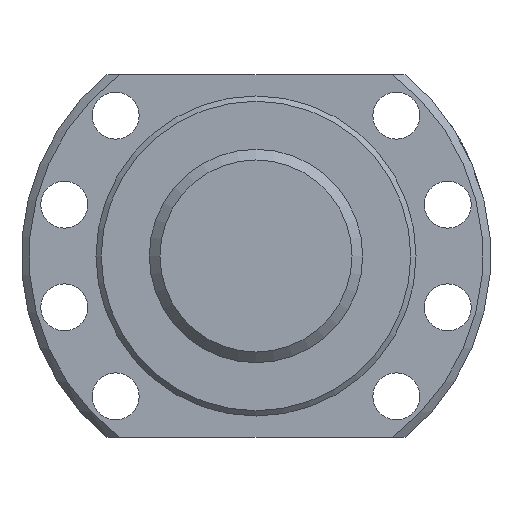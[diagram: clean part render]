
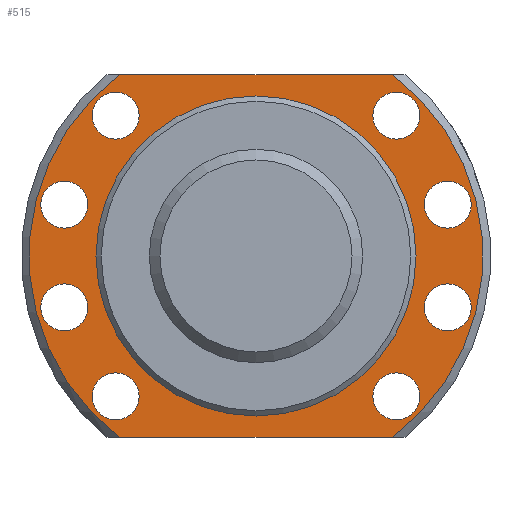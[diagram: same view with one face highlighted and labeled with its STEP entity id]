
A CAD part, left-side view. The second image highlights one B-rep face of the part: STEP entity #515.
In plain terms, the highlighted planar face has unit normal (-1, 0, 0).
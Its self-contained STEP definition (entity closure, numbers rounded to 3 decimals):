
#34=PLANE('',#599);
#61=CIRCLE('',#567,53.167);
#81=CIRCLE('',#598,53.167);
#82=CIRCLE('',#600,37.5);
#83=CIRCLE('',#601,5.5);
#84=CIRCLE('',#602,5.5);
#85=CIRCLE('',#603,5.5);
#86=CIRCLE('',#604,5.5);
#87=CIRCLE('',#605,5.5);
#88=CIRCLE('',#606,5.5);
#89=CIRCLE('',#607,5.5);
#90=CIRCLE('',#608,5.5);
#150=ORIENTED_EDGE('',*,*,#251,.T.);
#151=ORIENTED_EDGE('',*,*,#252,.F.);
#152=ORIENTED_EDGE('',*,*,#249,.F.);
#153=ORIENTED_EDGE('',*,*,#253,.F.);
#154=ORIENTED_EDGE('',*,*,#220,.F.);
#155=ORIENTED_EDGE('',*,*,#254,.T.);
#156=ORIENTED_EDGE('',*,*,#255,.T.);
#157=ORIENTED_EDGE('',*,*,#256,.T.);
#158=ORIENTED_EDGE('',*,*,#257,.T.);
#159=ORIENTED_EDGE('',*,*,#258,.T.);
#160=ORIENTED_EDGE('',*,*,#259,.T.);
#161=ORIENTED_EDGE('',*,*,#260,.T.);
#162=ORIENTED_EDGE('',*,*,#261,.T.);
#220=EDGE_CURVE('',#275,#276,#61,.T.);
#249=EDGE_CURVE('',#300,#301,#81,.T.);
#251=EDGE_CURVE('',#302,#302,#82,.T.);
#252=EDGE_CURVE('',#301,#275,#323,.T.);
#253=EDGE_CURVE('',#276,#300,#324,.T.);
#254=EDGE_CURVE('',#303,#303,#83,.T.);
#255=EDGE_CURVE('',#304,#304,#84,.T.);
#256=EDGE_CURVE('',#305,#305,#85,.T.);
#257=EDGE_CURVE('',#306,#306,#86,.T.);
#258=EDGE_CURVE('',#307,#307,#87,.T.);
#259=EDGE_CURVE('',#308,#308,#88,.T.);
#260=EDGE_CURVE('',#309,#309,#89,.T.);
#261=EDGE_CURVE('',#310,#310,#90,.T.);
#275=VERTEX_POINT('',#835);
#276=VERTEX_POINT('',#837);
#300=VERTEX_POINT('',#922);
#301=VERTEX_POINT('',#924);
#302=VERTEX_POINT('',#931);
#303=VERTEX_POINT('',#935);
#304=VERTEX_POINT('',#937);
#305=VERTEX_POINT('',#939);
#306=VERTEX_POINT('',#941);
#307=VERTEX_POINT('',#943);
#308=VERTEX_POINT('',#945);
#309=VERTEX_POINT('',#947);
#310=VERTEX_POINT('',#949);
#323=LINE('',#932,#331);
#324=LINE('',#933,#332);
#331=VECTOR('',#724,1000.);
#332=VECTOR('',#725,1000.);
#365=EDGE_LOOP('',(#150));
#366=EDGE_LOOP('',(#151,#152,#153,#154));
#367=EDGE_LOOP('',(#155));
#368=EDGE_LOOP('',(#156));
#369=EDGE_LOOP('',(#157));
#370=EDGE_LOOP('',(#158));
#371=EDGE_LOOP('',(#159));
#372=EDGE_LOOP('',(#160));
#373=EDGE_LOOP('',(#161));
#374=EDGE_LOOP('',(#162));
#441=FACE_BOUND('',#365,.T.);
#442=FACE_BOUND('',#366,.T.);
#443=FACE_BOUND('',#367,.T.);
#444=FACE_BOUND('',#368,.T.);
#445=FACE_BOUND('',#369,.T.);
#446=FACE_BOUND('',#370,.T.);
#447=FACE_BOUND('',#371,.T.);
#448=FACE_BOUND('',#372,.T.);
#449=FACE_BOUND('',#373,.T.);
#450=FACE_BOUND('',#374,.T.);
#515=ADVANCED_FACE('',(#441,#442,#443,#444,#445,#446,#447,#448,#449,#450),
#34,.T.);
#567=AXIS2_PLACEMENT_3D('',#836,#652,#653);
#598=AXIS2_PLACEMENT_3D('',#923,#718,#719);
#599=AXIS2_PLACEMENT_3D('',#929,#720,#721);
#600=AXIS2_PLACEMENT_3D('',#930,#722,#723);
#601=AXIS2_PLACEMENT_3D('',#934,#726,#727);
#602=AXIS2_PLACEMENT_3D('',#936,#728,#729);
#603=AXIS2_PLACEMENT_3D('',#938,#730,#731);
#604=AXIS2_PLACEMENT_3D('',#940,#732,#733);
#605=AXIS2_PLACEMENT_3D('',#942,#734,#735);
#606=AXIS2_PLACEMENT_3D('',#944,#736,#737);
#607=AXIS2_PLACEMENT_3D('',#946,#738,#739);
#608=AXIS2_PLACEMENT_3D('',#948,#740,#741);
#652=DIRECTION('',(1.,0.,0.));
#653=DIRECTION('',(0.,0.,-1.));
#718=DIRECTION('',(1.,0.,0.));
#719=DIRECTION('',(0.,0.,-1.));
#720=DIRECTION('',(-1.,0.,0.));
#721=DIRECTION('',(0.,0.,1.));
#722=DIRECTION('',(1.,0.,0.));
#723=DIRECTION('',(0.,0.,-1.));
#724=DIRECTION('',(0.,-1.,0.));
#725=DIRECTION('',(0.,1.,0.));
#726=DIRECTION('',(1.,0.,0.));
#727=DIRECTION('',(0.,0.,-1.));
#728=DIRECTION('',(1.,0.,0.));
#729=DIRECTION('',(0.,0.,-1.));
#730=DIRECTION('',(1.,0.,0.));
#731=DIRECTION('',(0.,0.,-1.));
#732=DIRECTION('',(1.,0.,0.));
#733=DIRECTION('',(0.,0.,-1.));
#734=DIRECTION('',(1.,0.,0.));
#735=DIRECTION('',(0.,0.,-1.));
#736=DIRECTION('',(1.,0.,0.));
#737=DIRECTION('',(0.,0.,-1.));
#738=DIRECTION('',(1.,0.,0.));
#739=DIRECTION('',(0.,0.,-1.));
#740=DIRECTION('',(1.,0.,0.));
#741=DIRECTION('',(0.,0.,-1.));
#835=CARTESIAN_POINT('',(10.,-31.944,42.5));
#836=CARTESIAN_POINT('',(10.,0.,0.));
#837=CARTESIAN_POINT('',(10.,-31.944,-42.5));
#922=CARTESIAN_POINT('',(10.,31.944,-42.5));
#923=CARTESIAN_POINT('',(10.,0.,0.));
#924=CARTESIAN_POINT('',(10.,31.944,42.5));
#929=CARTESIAN_POINT('',(10.,53.167,0.));
#930=CARTESIAN_POINT('',(10.,0.,0.));
#931=CARTESIAN_POINT('',(10.,0.,-37.5));
#932=CARTESIAN_POINT('',(10.,53.167,42.5));
#933=CARTESIAN_POINT('',(10.,53.167,-42.5));
#934=CARTESIAN_POINT('',(10.,-44.916,12.035));
#935=CARTESIAN_POINT('',(10.,-44.916,6.535));
#936=CARTESIAN_POINT('',(10.,44.916,-12.035));
#937=CARTESIAN_POINT('',(10.,44.916,-17.535));
#938=CARTESIAN_POINT('',(10.,-44.916,-12.035));
#939=CARTESIAN_POINT('',(10.,-44.916,-17.535));
#940=CARTESIAN_POINT('',(10.,44.916,12.035));
#941=CARTESIAN_POINT('',(10.,44.916,6.535));
#942=CARTESIAN_POINT('',(10.,-32.88,-32.88));
#943=CARTESIAN_POINT('',(10.,-32.88,-38.38));
#944=CARTESIAN_POINT('',(10.,32.88,32.88));
#945=CARTESIAN_POINT('',(10.,32.88,27.38));
#946=CARTESIAN_POINT('',(10.,-32.88,32.88));
#947=CARTESIAN_POINT('',(10.,-32.88,27.38));
#948=CARTESIAN_POINT('',(10.,32.88,-32.88));
#949=CARTESIAN_POINT('',(10.,32.88,-38.38));
